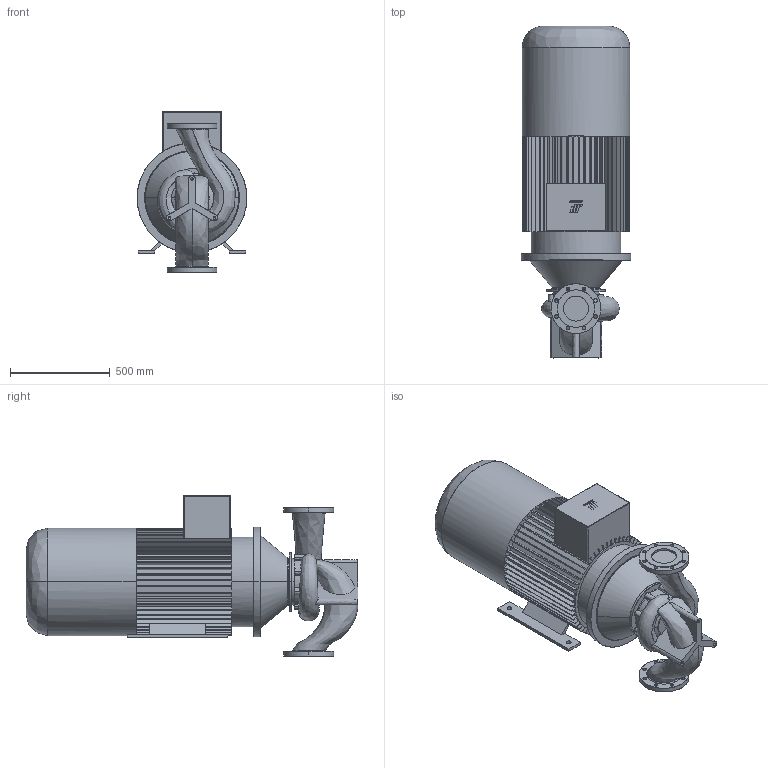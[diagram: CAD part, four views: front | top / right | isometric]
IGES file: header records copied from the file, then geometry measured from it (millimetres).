
Start section: CombiLine
Global section: file name: CLB_125-200_IEC280M_ND10.igs; native system:  By UGS Corp.; preprocessor: XPlus GENERIC/IGES 3.0; author: Stageplaats; organization: Johnson Pump Water B.V.; date: 20070717.134511; units: millimetre
Bounding box: 550 x 1665 x 809 mm (x, y, z)
Surface area: 5201595.3 mm2 (no closed solid volume)
Topology: 0 solids, 0 shells, 602 faces, 3649 edges, 3643 vertices
Faces by surface type: bspline 602
